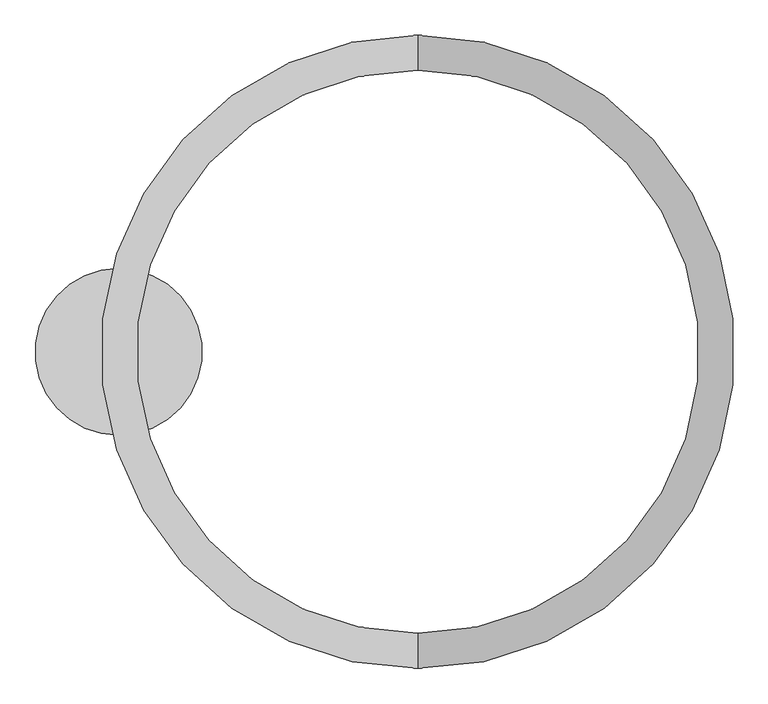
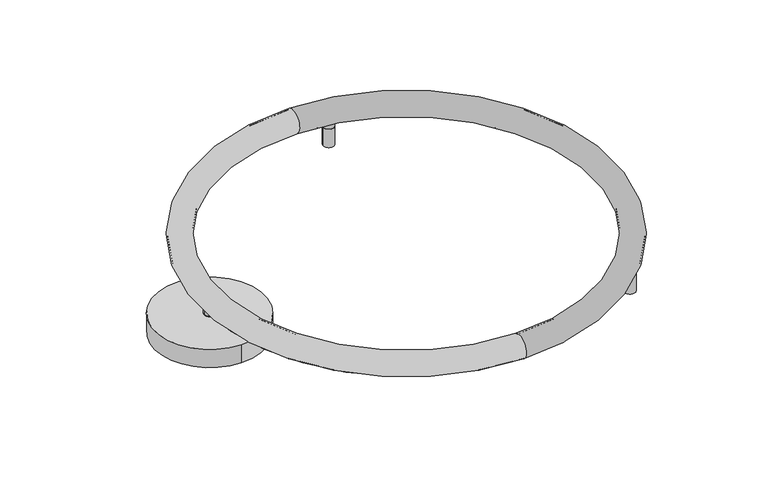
"""IFC4 building model written with IfcOpenShell, lengths in millimetres: light fixture geometry, ARTEMIDE-AoL-StandAlone-Circular_WallCeiling : StandALone_WallCeiling_Circular-900mm 6040lm 3000K."""

from ifc_helpers import new_model, si_unit, point, frame, origin, origin_with_axes, origin_2d, place, context, project, spatial, polyline, circle_curve, ellipse_curve, trimmed, segment, composite_curve, outline, extrude, source, transform, mapped, element, save
from ifc_brep_helpers import plane_surface, cylinder_surface, revolved_surface, advanced_brep


def light_fixture_286f3343(model_context):
    return source(origin(), model_context, "Body", "SolidModel", [
        advanced_brep(
        [(-5.5, 0.0, 0.0), (5.5, 0.0, 0.0), (0.0, 0.0, 0.0), (-5.5, 0.0, 1.0), (5.5, 0.0, 1.0), (-12.0, 0.0, 1.0), (12.0, 0.0, 1.0), (-12.0, 0.0, 42.5), (12.0, 0.0, 42.5), (-9.5243756, 0.0, 42.5), (9.5243756, 0.0, 42.5), (-9.5243756, 0.0, 43.4995055), (9.5243756, 0.0, 43.4995055), (-12.0, 0.0, 43.4995055), (12.0, 0.0, 43.4995055), (-12.0, 0.0, 52.9579379), (12.0, 0.0, 52.9579379), (0.0, 0.0, 52.9579379)],
        [
            (0, 1, circle_curve(frame((0.0, 0.0, 0.0), z_axis=(0.0, 0.0, -1.0), x_axis=(1.0, 0.0, 0.0)), 5.5)),
            (1, 2),
            (2, 0),
            (1, 0, circle_curve(frame((0.0, 0.0, 0.0), z_axis=(0.0, 0.0, -1.0), x_axis=(1.0, 0.0, 0.0)), 5.5)),
            (3, 4, circle_curve(frame((0.0, 0.0, 1.0), z_axis=(0.0, 0.0, -1.0), x_axis=(1.0, 0.0, 0.0)), 5.5)),
            (4, 1),
            (0, 3),
            (4, 3, circle_curve(frame((0.0, 0.0, 1.0), z_axis=(0.0, 0.0, -1.0), x_axis=(1.0, 0.0, 0.0)), 5.5)),
            (5, 6, circle_curve(frame((0.0, 0.0, 1.0), z_axis=(0.0, 0.0, -1.0), x_axis=(1.0, 0.0, 0.0)), 12.0)),
            (6, 4),
            (3, 5),
            (6, 5, circle_curve(frame((0.0, 0.0, 1.0), z_axis=(0.0, 0.0, -1.0), x_axis=(1.0, 0.0, 0.0)), 12.0)),
            (7, 8, circle_curve(frame((0.0, 0.0, 42.5), z_axis=(0.0, 0.0, -1.0), x_axis=(1.0, 0.0, 0.0)), 12.0)),
            (8, 6),
            (5, 7),
            (8, 7, circle_curve(frame((0.0, 0.0, 42.5), z_axis=(0.0, 0.0, -1.0), x_axis=(1.0, 0.0, 0.0)), 12.0)),
            (9, 10, circle_curve(frame((0.0, 0.0, 42.5), z_axis=(0.0, 0.0, -1.0), x_axis=(1.0, 0.0, 0.0)), 9.5243756)),
            (10, 8),
            (7, 9),
            (10, 9, circle_curve(frame((0.0, 0.0, 42.5), z_axis=(0.0, 0.0, -1.0), x_axis=(1.0, 0.0, 0.0)), 9.5243756)),
            (11, 12, circle_curve(frame((0.0, 0.0, 43.4995055), z_axis=(0.0, 0.0, -1.0), x_axis=(1.0, 0.0, 0.0)), 9.5243756)),
            (12, 10),
            (9, 11),
            (12, 11, circle_curve(frame((0.0, 0.0, 43.4995055), z_axis=(0.0, 0.0, -1.0), x_axis=(1.0, 0.0, 0.0)), 9.5243756)),
            (13, 14, circle_curve(frame((0.0, 0.0, 43.4995055), z_axis=(0.0, 0.0, -1.0), x_axis=(1.0, 0.0, 0.0)), 12.0)),
            (14, 12),
            (11, 13),
            (14, 13, circle_curve(frame((0.0, 0.0, 43.4995055), z_axis=(0.0, 0.0, -1.0), x_axis=(1.0, 0.0, 0.0)), 12.0)),
            (15, 16, circle_curve(frame((0.0, 0.0, 52.9579379), z_axis=(0.0, 0.0, -1.0), x_axis=(1.0, 0.0, 0.0)), 12.0)),
            (16, 14),
            (13, 15),
            (16, 15, circle_curve(frame((0.0, 0.0, 52.9579379), z_axis=(0.0, 0.0, -1.0), x_axis=(1.0, 0.0, 0.0)), 12.0)),
            (17, 16),
            (15, 17),
        ],
        [
            plane_surface(frame((0.0, 0.0, 0.0), z_axis=(0.0, 0.0, -1.0), x_axis=(1.0, 0.0, 0.0))),
            cylinder_surface(frame((0.0, 0.0, -58.83358), z_axis=(0.0, 0.0, 1.0), x_axis=(1.0, 0.0, 0.0)), 5.5),
            plane_surface(frame((0.0, 0.0, 1.0), z_axis=(0.0, 0.0, -1.0), x_axis=(1.0, 0.0, 0.0))),
            cylinder_surface(frame((0.0, 0.0, -58.83358), z_axis=(0.0, 0.0, 1.0), x_axis=(1.0, 0.0, 0.0)), 12.0),
            plane_surface(frame((0.0, 0.0, 42.5), z_axis=(0.0, 0.0, 1.0), x_axis=(1.0, 0.0, 0.0))),
            cylinder_surface(frame((0.0, 0.0, -58.83358), z_axis=(0.0, 0.0, 1.0), x_axis=(1.0, 0.0, 0.0)), 9.5243756),
            plane_surface(frame((0.0, 0.0, 43.4995055), z_axis=(0.0, 0.0, -1.0), x_axis=(1.0, 0.0, 0.0))),
            plane_surface(frame((0.0, 0.0, 52.9579379), z_axis=(0.0, 0.0, 1.0), x_axis=(1.0, 0.0, 0.0))),
        ],
        [
            (0, [[1, 2, 3]]),
            (0, [[4, -3, -2]]),
            (1, [[5, 6, -1, 7]]),
            (1, [[8, -7, -4, -6]]),
            (2, [[9, 10, -5, 11]]),
            (2, [[12, -11, -8, -10]]),
            (3, [[13, 14, -9, 15]]),
            (3, [[16, -15, -12, -14]]),
            (4, [[17, 18, -13, 19]]),
            (4, [[20, -19, -16, -18]]),
            (5, [[21, 22, -17, 23]]),
            (5, [[24, -23, -20, -22]]),
            (6, [[25, 26, -21, 27]]),
            (6, [[28, -27, -24, -26]]),
            (3, [[29, 30, -25, 31]]),
            (3, [[32, -31, -28, -30]]),
            (7, [[33, -29, 34]]),
            (7, [[-34, -32, -33]]),
        ],
    ),
        advanced_brep(
        [(504.1, 418.0, 0.0), (493.1, 418.0, 0.0), (498.6, 418.0, 0.0), (504.1, 418.0, 1.0), (493.1, 418.0, 1.0), (510.6, 418.0, 1.0), (486.6, 418.0, 1.0), (510.6, 418.0, 42.5), (486.6, 418.0, 42.5), (508.1243756, 418.0, 42.5), (489.0756244, 418.0, 42.5), (508.1243756, 418.0, 43.4995055), (489.0756244, 418.0, 43.4995055), (510.6, 418.0, 43.4995055), (486.6, 418.0, 43.4995055), (510.6, 418.0, 52.9579379), (486.6, 418.0, 52.9579379), (498.6, 418.0, 52.9579379)],
        [
            (0, 1, circle_curve(frame((498.6, 418.0, 0.0), z_axis=(0.0, 0.0, -1.0), x_axis=(-1.0, 0.0, 0.0)), 5.5)),
            (1, 2),
            (2, 0),
            (1, 0, circle_curve(frame((498.6, 418.0, 0.0), z_axis=(0.0, 0.0, -1.0), x_axis=(-1.0, 0.0, 0.0)), 5.5)),
            (3, 4, circle_curve(frame((498.6, 418.0, 1.0), z_axis=(0.0, 0.0, -1.0), x_axis=(-1.0, 0.0, 0.0)), 5.5)),
            (4, 1),
            (0, 3),
            (4, 3, circle_curve(frame((498.6, 418.0, 1.0), z_axis=(0.0, 0.0, -1.0), x_axis=(-1.0, 0.0, 0.0)), 5.5)),
            (5, 6, circle_curve(frame((498.6, 418.0, 1.0), z_axis=(0.0, 0.0, -1.0), x_axis=(-1.0, 0.0, 0.0)), 12.0)),
            (6, 4),
            (3, 5),
            (6, 5, circle_curve(frame((498.6, 418.0, 1.0), z_axis=(0.0, 0.0, -1.0), x_axis=(-1.0, 0.0, 0.0)), 12.0)),
            (7, 8, circle_curve(frame((498.6, 418.0, 42.5), z_axis=(0.0, 0.0, -1.0), x_axis=(-1.0, 0.0, 0.0)), 12.0)),
            (8, 6),
            (5, 7),
            (8, 7, circle_curve(frame((498.6, 418.0, 42.5), z_axis=(0.0, 0.0, -1.0), x_axis=(-1.0, 0.0, 0.0)), 12.0)),
            (9, 10, circle_curve(frame((498.6, 418.0, 42.5), z_axis=(0.0, 0.0, -1.0), x_axis=(-1.0, 0.0, 0.0)), 9.5243756)),
            (10, 8),
            (7, 9),
            (10, 9, circle_curve(frame((498.6, 418.0, 42.5), z_axis=(0.0, 0.0, -1.0), x_axis=(-1.0, 0.0, 0.0)), 9.5243756)),
            (11, 12, circle_curve(frame((498.6, 418.0, 43.4995055), z_axis=(0.0, 0.0, -1.0), x_axis=(-1.0, 0.0, 0.0)), 9.5243756)),
            (12, 10),
            (9, 11),
            (12, 11, circle_curve(frame((498.6, 418.0, 43.4995055), z_axis=(0.0, 0.0, -1.0), x_axis=(-1.0, 0.0, 0.0)), 9.5243756)),
            (13, 14, circle_curve(frame((498.6, 418.0, 43.4995055), z_axis=(0.0, 0.0, -1.0), x_axis=(-1.0, 0.0, 0.0)), 12.0)),
            (14, 12),
            (11, 13),
            (14, 13, circle_curve(frame((498.6, 418.0, 43.4995055), z_axis=(0.0, 0.0, -1.0), x_axis=(-1.0, 0.0, 0.0)), 12.0)),
            (15, 16, circle_curve(frame((498.6, 418.0, 52.9579379), z_axis=(0.0, 0.0, -1.0), x_axis=(-1.0, 0.0, 0.0)), 12.0)),
            (16, 14),
            (13, 15),
            (16, 15, circle_curve(frame((498.6, 418.0, 52.9579379), z_axis=(0.0, 0.0, -1.0), x_axis=(-1.0, 0.0, 0.0)), 12.0)),
            (17, 16),
            (15, 17),
        ],
        [
            plane_surface(frame((498.6, 418.0, 0.0), z_axis=(0.0, 0.0, -1.0), x_axis=(-1.0, 0.0, 0.0))),
            cylinder_surface(frame((498.6, 418.0, -58.83358), z_axis=(0.0, 0.0, 1.0), x_axis=(-1.0, 0.0, 0.0)), 5.5),
            plane_surface(frame((498.6, 418.0, 1.0), z_axis=(0.0, 0.0, -1.0), x_axis=(-1.0, 0.0, 0.0))),
            cylinder_surface(frame((498.6, 418.0, -58.83358), z_axis=(0.0, 0.0, 1.0), x_axis=(-1.0, 0.0, 0.0)), 12.0),
            plane_surface(frame((498.6, 418.0, 42.5), z_axis=(0.0, 0.0, 1.0), x_axis=(-1.0, 0.0, 0.0))),
            cylinder_surface(frame((498.6, 418.0, -58.83358), z_axis=(0.0, 0.0, 1.0), x_axis=(-1.0, 0.0, 0.0)), 9.5243756),
            plane_surface(frame((498.6, 418.0, 43.4995055), z_axis=(0.0, 0.0, -1.0), x_axis=(-1.0, 0.0, 0.0))),
            plane_surface(frame((498.6, 418.0, 52.9579379), z_axis=(0.0, 0.0, 1.0), x_axis=(-1.0, 0.0, 0.0))),
        ],
        [
            (0, [[1, 2, 3]]),
            (0, [[4, -3, -2]]),
            (1, [[5, 6, -1, 7]]),
            (1, [[8, -7, -4, -6]]),
            (2, [[9, 10, -5, 11]]),
            (2, [[12, -11, -8, -10]]),
            (3, [[13, 14, -9, 15]]),
            (3, [[16, -15, -12, -14]]),
            (4, [[17, 18, -13, 19]]),
            (4, [[20, -19, -16, -18]]),
            (5, [[21, 22, -17, 23]]),
            (5, [[24, -23, -20, -22]]),
            (6, [[25, 26, -21, 27]]),
            (6, [[28, -27, -24, -26]]),
            (3, [[29, 30, -25, 31]]),
            (3, [[32, -31, -28, -30]]),
            (7, [[33, -29, 34]]),
            (7, [[-34, -32, -33]]),
        ],
    ),
        extrude(outline(composite_curve([segment(trimmed(circle_curve(origin_2d(), 118.5), [point((0.0, 118.5))], [point((0.0, -118.5))], False, "CARTESIAN"), True, "CONTINUOUS"), segment(trimmed(circle_curve(origin_2d(), 118.5), [point((0.0, -118.5))], [point((0.0, 118.5))], False, "CARTESIAN"), True, "CONTINUOUS")], self_intersect=False)), origin_with_axes(), (0.0, 0.0, 1.0), 42.0),
        advanced_brep(
        [(753.5, -278.8, 0.0), (742.5, -278.8, 0.0), (748.0, -278.8, 0.0), (753.5, -278.8, 1.0), (742.5, -278.8, 1.0), (760.0, -278.8, 1.0), (736.0, -278.8, 1.0), (760.0, -278.8, 42.5), (736.0, -278.8, 42.5), (757.5243756, -278.8, 42.5), (738.4756244, -278.8, 42.5), (757.5243756, -278.8, 43.4995055), (738.4756244, -278.8, 43.4995055), (760.0, -278.8, 43.4995055), (736.0, -278.8, 43.4995055), (760.0, -278.8, 52.9579379), (736.0, -278.8, 52.9579379), (748.0, -278.8, 52.9579379)],
        [
            (0, 1, circle_curve(frame((748.0, -278.8, 0.0), z_axis=(0.0, 0.0, -1.0), x_axis=(-1.0, 0.0, 0.0)), 5.5)),
            (1, 2),
            (2, 0),
            (1, 0, circle_curve(frame((748.0, -278.8, 0.0), z_axis=(0.0, 0.0, -1.0), x_axis=(-1.0, 0.0, 0.0)), 5.5)),
            (3, 4, circle_curve(frame((748.0, -278.8, 1.0), z_axis=(0.0, 0.0, -1.0), x_axis=(-1.0, 0.0, 0.0)), 5.5)),
            (4, 1),
            (0, 3),
            (4, 3, circle_curve(frame((748.0, -278.8, 1.0), z_axis=(0.0, 0.0, -1.0), x_axis=(-1.0, 0.0, 0.0)), 5.5)),
            (5, 6, circle_curve(frame((748.0, -278.8, 1.0), z_axis=(0.0, 0.0, -1.0), x_axis=(-1.0, 0.0, 0.0)), 12.0)),
            (6, 4),
            (3, 5),
            (6, 5, circle_curve(frame((748.0, -278.8, 1.0), z_axis=(0.0, 0.0, -1.0), x_axis=(-1.0, 0.0, 0.0)), 12.0)),
            (7, 8, circle_curve(frame((748.0, -278.8, 42.5), z_axis=(0.0, 0.0, -1.0), x_axis=(-1.0, 0.0, 0.0)), 12.0)),
            (8, 6),
            (5, 7),
            (8, 7, circle_curve(frame((748.0, -278.8, 42.5), z_axis=(0.0, 0.0, -1.0), x_axis=(-1.0, 0.0, 0.0)), 12.0)),
            (9, 10, circle_curve(frame((748.0, -278.8, 42.5), z_axis=(0.0, 0.0, -1.0), x_axis=(-1.0, 0.0, 0.0)), 9.5243756)),
            (10, 8),
            (7, 9),
            (10, 9, circle_curve(frame((748.0, -278.8, 42.5), z_axis=(0.0, 0.0, -1.0), x_axis=(-1.0, 0.0, 0.0)), 9.5243756)),
            (11, 12, circle_curve(frame((748.0, -278.8, 43.4995055), z_axis=(0.0, 0.0, -1.0), x_axis=(-1.0, 0.0, 0.0)), 9.5243756)),
            (12, 10),
            (9, 11),
            (12, 11, circle_curve(frame((748.0, -278.8, 43.4995055), z_axis=(0.0, 0.0, -1.0), x_axis=(-1.0, 0.0, 0.0)), 9.5243756)),
            (13, 14, circle_curve(frame((748.0, -278.8, 43.4995055), z_axis=(0.0, 0.0, -1.0), x_axis=(-1.0, 0.0, 0.0)), 12.0)),
            (14, 12),
            (11, 13),
            (14, 13, circle_curve(frame((748.0, -278.8, 43.4995055), z_axis=(0.0, 0.0, -1.0), x_axis=(-1.0, 0.0, 0.0)), 12.0)),
            (15, 16, circle_curve(frame((748.0, -278.8, 52.9579379), z_axis=(0.0, 0.0, -1.0), x_axis=(-1.0, 0.0, 0.0)), 12.0)),
            (16, 14),
            (13, 15),
            (16, 15, circle_curve(frame((748.0, -278.8, 52.9579379), z_axis=(0.0, 0.0, -1.0), x_axis=(-1.0, 0.0, 0.0)), 12.0)),
            (17, 16),
            (15, 17),
        ],
        [
            plane_surface(frame((748.0, -278.8, 0.0), z_axis=(0.0, 0.0, -1.0), x_axis=(-1.0, 0.0, 0.0))),
            cylinder_surface(frame((748.0, -278.8, -58.83358), z_axis=(0.0, 0.0, 1.0), x_axis=(-1.0, 0.0, 0.0)), 5.5),
            plane_surface(frame((748.0, -278.8, 1.0), z_axis=(0.0, 0.0, -1.0), x_axis=(-1.0, 0.0, 0.0))),
            cylinder_surface(frame((748.0, -278.8, -58.83358), z_axis=(0.0, 0.0, 1.0), x_axis=(-1.0, 0.0, 0.0)), 12.0),
            plane_surface(frame((748.0, -278.8, 42.5), z_axis=(0.0, 0.0, 1.0), x_axis=(-1.0, 0.0, 0.0))),
            cylinder_surface(frame((748.0, -278.8, -58.83358), z_axis=(0.0, 0.0, 1.0), x_axis=(-1.0, 0.0, 0.0)), 9.5243756),
            plane_surface(frame((748.0, -278.8, 43.4995055), z_axis=(0.0, 0.0, -1.0), x_axis=(-1.0, 0.0, 0.0))),
            plane_surface(frame((748.0, -278.8, 52.9579379), z_axis=(0.0, 0.0, 1.0), x_axis=(-1.0, 0.0, 0.0))),
        ],
        [
            (0, [[1, 2, 3]]),
            (0, [[4, -3, -2]]),
            (1, [[5, 6, -1, 7]]),
            (1, [[8, -7, -4, -6]]),
            (2, [[9, 10, -5, 11]]),
            (2, [[12, -11, -8, -10]]),
            (3, [[13, 14, -9, 15]]),
            (3, [[16, -15, -12, -14]]),
            (4, [[17, 18, -13, 19]]),
            (4, [[20, -19, -16, -18]]),
            (5, [[21, 22, -17, 23]]),
            (5, [[24, -23, -20, -22]]),
            (6, [[25, 26, -21, 27]]),
            (6, [[28, -27, -24, -26]]),
            (3, [[29, 30, -25, 31]]),
            (3, [[32, -31, -28, -30]]),
            (7, [[33, -29, 34]]),
            (7, [[-34, -32, -33]]),
        ],
    ),
        advanced_brep(
        [(425.3445739, -413.1969999, 52.9151372), (425.3445739, 413.3030001, 52.9151372), (425.3445739, 436.8030001, 52.9151372), (425.3445739, -436.6969999, 52.9151372), (425.3445739, -413.1969999, 57.2410096), (425.3445739, 413.3030001, 57.2410096), (425.3445739, -411.2792459, 55.8106819), (425.3445739, 411.3852461, 55.8106819), (425.3445739, 411.3852461, 57.2410096), (425.3445739, -411.2792459, 57.2410096), (425.3445739, -409.3292459, 57.2258724), (425.3445739, 409.4352461, 57.2258724), (425.3445739, -409.3292459, 59.2258716), (425.3445739, 409.4352461, 59.2258716), (425.3445739, -412.2792459, 60.7258716), (425.3445739, 412.3852461, 60.7258716), (425.3445739, 412.3852461, 59.2258716), (425.3445739, -412.2792459, 59.2258716), (425.3445739, -442.2249794, 60.7258716), (425.3445739, 442.3309795, 60.7258716), (425.3445739, 407.7750206, 60.7258716), (425.3445739, -407.6690205, 60.7258716), (425.3445739, -437.6147539, 59.2258716), (425.3445739, 437.7207541, 59.2258716), (425.3445739, 437.7207541, 60.7258716), (425.3445739, -437.6147539, 60.7258716), (425.3445739, -440.5647539, 57.2258724), (425.3445739, 440.6707541, 57.2258724), (425.3445739, 440.6707541, 59.2258716), (425.3445739, -440.5647539, 59.2258716), (425.3445739, -438.6147539, 55.8106819), (425.3445739, 438.7207541, 55.8106819), (425.3445739, -438.6147539, 57.2410096), (425.3445739, 438.7207541, 57.2410096), (425.3445739, 436.8030001, 57.2410096), (425.3445739, -436.6969999, 57.2410096)],
        [
            (0, 1, circle_curve(frame((425.3445739, 0.0530001, 52.9151372), z_axis=(0.0, 0.0, -1.0), x_axis=(0.0, 1.0, 0.0)), 413.25)),
            (1, 2, circle_curve(frame((425.3445739, 425.0530001, 74.9817976), z_axis=(-1.0, 0.0, 0.0), x_axis=(0.0, -1.0, 0.0)), 25.0)),
            (2, 3, circle_curve(frame((425.3445739, 0.0530001, 52.9151372), z_axis=(0.0, 0.0, 1.0), x_axis=(0.0, 1.0, 0.0)), 436.75)),
            (3, 0, circle_curve(frame((425.3445739, -424.9469999, 74.9817976), z_axis=(-1.0, 0.0, 0.0), x_axis=(0.0, 1.0, 0.0)), 25.0)),
            (4, 5, circle_curve(frame((425.3445739, 0.0530001, 57.2410096), z_axis=(0.0, 0.0, -1.0), x_axis=(0.0, 1.0, 0.0)), 413.25)),
            (5, 1),
            (0, 4),
            (6, 7, circle_curve(frame((425.3445739, 0.0530001, 55.8106819), z_axis=(0.0, 0.0, -1.0), x_axis=(0.0, 1.0, 0.0)), 411.332246)),
            (7, 8),
            (8, 9, circle_curve(frame((425.3445739, 0.0530001, 57.2410096), z_axis=(0.0, 0.0, 1.0), x_axis=(0.0, 1.0, 0.0)), 411.332246)),
            (9, 6),
            (10, 11, circle_curve(frame((425.3445739, 0.0530001, 57.2258724), z_axis=(0.0, 0.0, -1.0), x_axis=(0.0, 1.0, 0.0)), 409.382246)),
            (11, 7),
            (6, 10),
            (12, 13, circle_curve(frame((425.3445739, 0.0530001, 59.2258716), z_axis=(0.0, 0.0, -1.0), x_axis=(0.0, 1.0, 0.0)), 409.382246)),
            (13, 11),
            (10, 12),
            (14, 15, circle_curve(frame((425.3445739, 0.0530001, 60.7258716), z_axis=(0.0, 0.0, -1.0), x_axis=(0.0, 1.0, 0.0)), 412.332246)),
            (15, 16),
            (16, 17, circle_curve(frame((425.3445739, 0.0530001, 59.2258716), z_axis=(0.0, 0.0, 1.0), x_axis=(0.0, 1.0, 0.0)), 412.332246)),
            (17, 14),
            (18, 19, circle_curve(frame((425.3445739, 0.0530001, 60.7258716), z_axis=(0.0, 0.0, -1.0), x_axis=(0.0, 1.0, 0.0)), 442.2779794)),
            (19, 20, circle_curve(frame((425.3445739, 425.0530001, 74.9817976), z_axis=(1.0, 0.0, 0.0), x_axis=(0.0, -1.0, 0.0)), 22.4)),
            (20, 21, circle_curve(frame((425.3445739, 0.0530001, 60.7258716), z_axis=(0.0, 0.0, 1.0), x_axis=(0.0, 1.0, 0.0)), 407.7220206)),
            (21, 18, circle_curve(frame((425.3445739, -424.9469999, 74.9817976), z_axis=(1.0, 0.0, 0.0), x_axis=(0.0, 1.0, 0.0)), 22.4)),
            (22, 23, circle_curve(frame((425.3445739, 0.0530001, 59.2258716), z_axis=(0.0, 0.0, -1.0), x_axis=(0.0, 1.0, 0.0)), 437.667754)),
            (23, 24),
            (24, 25, circle_curve(frame((425.3445739, 0.0530001, 60.7258716), z_axis=(0.0, 0.0, 1.0), x_axis=(0.0, 1.0, 0.0)), 437.667754)),
            (25, 22),
            (26, 27, circle_curve(frame((425.3445739, 0.0530001, 57.2258724), z_axis=(0.0, 0.0, -1.0), x_axis=(0.0, 1.0, 0.0)), 440.617754)),
            (27, 28),
            (28, 29, circle_curve(frame((425.3445739, 0.0530001, 59.2258716), z_axis=(0.0, 0.0, 1.0), x_axis=(0.0, 1.0, 0.0)), 440.617754)),
            (29, 26),
            (30, 31, circle_curve(frame((425.3445739, 0.0530001, 55.8106819), z_axis=(0.0, 0.0, -1.0), x_axis=(0.0, 1.0, 0.0)), 438.667754)),
            (31, 27),
            (26, 30),
            (32, 33, circle_curve(frame((425.3445739, 0.0530001, 57.2410096), z_axis=(0.0, 0.0, -1.0), x_axis=(0.0, 1.0, 0.0)), 438.667754)),
            (33, 31),
            (30, 32),
            (2, 34),
            (34, 35, circle_curve(frame((425.3445739, 0.0530001, 57.2410096), z_axis=(0.0, 0.0, 1.0), x_axis=(0.0, 1.0, 0.0)), 436.75)),
            (35, 3),
            (1, 0, circle_curve(frame((425.3445739, 0.0530001, 52.9151372), z_axis=(0.0, 0.0, -1.0), x_axis=(0.0, -1.0, 0.0)), 413.25)),
            (3, 2, circle_curve(frame((425.3445739, 0.0530001, 52.9151372), z_axis=(0.0, 0.0, 1.0), x_axis=(0.0, -1.0, 0.0)), 436.75)),
            (5, 4, circle_curve(frame((425.3445739, 0.0530001, 57.2410096), z_axis=(0.0, 0.0, -1.0), x_axis=(0.0, -1.0, 0.0)), 413.25)),
            (8, 9, circle_curve(frame((425.3445739, 0.0530001, 57.2410096), z_axis=(0.0, 0.0, -1.0), x_axis=(0.0, -1.0, 0.0)), 411.332246)),
            (7, 6, circle_curve(frame((425.3445739, 0.0530001, 55.8106819), z_axis=(0.0, 0.0, -1.0), x_axis=(0.0, -1.0, 0.0)), 411.332246)),
            (11, 10, circle_curve(frame((425.3445739, 0.0530001, 57.2258724), z_axis=(0.0, 0.0, -1.0), x_axis=(0.0, -1.0, 0.0)), 409.382246)),
            (13, 12, circle_curve(frame((425.3445739, 0.0530001, 59.2258716), z_axis=(0.0, 0.0, -1.0), x_axis=(0.0, -1.0, 0.0)), 409.382246)),
            (16, 17, circle_curve(frame((425.3445739, 0.0530001, 59.2258716), z_axis=(0.0, 0.0, -1.0), x_axis=(0.0, -1.0, 0.0)), 412.332246)),
            (15, 14, circle_curve(frame((425.3445739, 0.0530001, 60.7258716), z_axis=(0.0, 0.0, -1.0), x_axis=(0.0, -1.0, 0.0)), 412.332246)),
            (20, 21, circle_curve(frame((425.3445739, 0.0530001, 60.7258716), z_axis=(0.0, 0.0, -1.0), x_axis=(0.0, -1.0, 0.0)), 407.7220206)),
            (19, 18, circle_curve(frame((425.3445739, 0.0530001, 60.7258716), z_axis=(0.0, 0.0, -1.0), x_axis=(0.0, -1.0, 0.0)), 442.2779794)),
            (24, 25, circle_curve(frame((425.3445739, 0.0530001, 60.7258716), z_axis=(0.0, 0.0, -1.0), x_axis=(0.0, -1.0, 0.0)), 437.667754)),
            (23, 22, circle_curve(frame((425.3445739, 0.0530001, 59.2258716), z_axis=(0.0, 0.0, -1.0), x_axis=(0.0, -1.0, 0.0)), 437.667754)),
            (28, 29, circle_curve(frame((425.3445739, 0.0530001, 59.2258716), z_axis=(0.0, 0.0, -1.0), x_axis=(0.0, -1.0, 0.0)), 440.617754)),
            (27, 26, circle_curve(frame((425.3445739, 0.0530001, 57.2258724), z_axis=(0.0, 0.0, -1.0), x_axis=(0.0, -1.0, 0.0)), 440.617754)),
            (31, 30, circle_curve(frame((425.3445739, 0.0530001, 55.8106819), z_axis=(0.0, 0.0, -1.0), x_axis=(0.0, -1.0, 0.0)), 438.667754)),
            (33, 32, circle_curve(frame((425.3445739, 0.0530001, 57.2410096), z_axis=(0.0, 0.0, -1.0), x_axis=(0.0, -1.0, 0.0)), 438.667754)),
            (34, 35, circle_curve(frame((425.3445739, 0.0530001, 57.2410096), z_axis=(0.0, 0.0, -1.0), x_axis=(0.0, -1.0, 0.0)), 436.75)),
        ],
        [
            revolved_surface(trimmed(ellipse_curve(frame((425.3445739, 425.0530001, 74.9817976), z_axis=(1.0, 0.0, 0.0), x_axis=(0.0, -1.0, 0.0)), 25.0, 25.0), [point((425.3445739, 436.8030001, 52.9151372))], [point((425.3445739, 413.3030001, 52.9151372))], True, "CARTESIAN"), (425.3445739, 0.0530001, 50.0), (0.0, 0.0, 1.0)),
            cylinder_surface(frame((425.3445739, 0.0530001, 50.0), z_axis=(0.0, 0.0, 1.0), x_axis=(0.0, 1.0, 0.0)), 413.25),
            revolved_surface(polyline([(425.3445739, 411.3852461, 57.2410096), (425.3445739, 411.3852461, 55.8106819)]), (425.3445739, 0.0530001, 50.0), (0.0, 0.0, 1.0)),
            revolved_surface(polyline([(425.3445739, 411.3852461, 55.8106819), (425.3445739, 409.4352461, 57.2258724)]), (425.3445739, 0.0530001, 50.0), (0.0, 0.0, 1.0)),
            cylinder_surface(frame((425.3445739, 0.0530001, 50.0), z_axis=(0.0, 0.0, 1.0), x_axis=(0.0, 1.0, 0.0)), 409.382246),
            cylinder_surface(frame((425.3445739, 0.0530001, 50.0), z_axis=(0.0, 0.0, 1.0), x_axis=(0.0, 1.0, 0.0)), 412.332246),
            revolved_surface(trimmed(ellipse_curve(frame((425.3445739, 425.0530001, 74.9817976), z_axis=(-1.0, 0.0, 0.0), x_axis=(0.0, -1.0, 0.0)), 22.4, 22.4), [point((425.3445739, 407.7750206, 60.7258716))], [point((425.3445739, 442.3309795, 60.7258716))], True, "CARTESIAN"), (425.3445739, 0.0530001, 50.0), (0.0, 0.0, 1.0)),
            revolved_surface(polyline([(425.3445739, 437.7207541, 60.7258716), (425.3445739, 437.7207541, 59.2258716)]), (425.3445739, 0.0530001, 50.0), (0.0, 0.0, 1.0)),
            revolved_surface(polyline([(425.3445739, 440.6707541, 59.2258716), (425.3445739, 440.6707541, 57.2258724)]), (425.3445739, 0.0530001, 50.0), (0.0, 0.0, 1.0)),
            revolved_surface(polyline([(425.3445739, 440.6707541, 57.2258724), (425.3445739, 438.7207541, 55.8106819)]), (425.3445739, 0.0530001, 50.0), (0.0, 0.0, 1.0)),
            cylinder_surface(frame((425.3445739, 0.0530001, 50.0), z_axis=(0.0, 0.0, 1.0), x_axis=(0.0, 1.0, 0.0)), 438.667754),
            revolved_surface(polyline([(425.3445739, 436.8030001, 57.2410096), (425.3445739, 436.8030001, 52.9151372)]), (425.3445739, 0.0530001, 50.0), (0.0, 0.0, 1.0)),
            revolved_surface(trimmed(ellipse_curve(frame((425.3445739, -424.9469999, 74.9817976), z_axis=(-1.0, 0.0, 0.0), x_axis=(0.0, 1.0, 0.0)), 25.0, 25.0), [point((425.3445739, -436.6969999, 52.9151372))], [point((425.3445739, -413.1969999, 52.9151372))], True, "CARTESIAN"), (425.3445739, 0.0530001, 50.0), (0.0, 0.0, 1.0)),
            cylinder_surface(frame((425.3445739, 0.0530001, 50.0), z_axis=(0.0, 0.0, 1.0), x_axis=(0.0, -1.0, 0.0)), 413.25),
            plane_surface(frame((425.3445739, 0.0530001, 57.2410096), z_axis=(0.0, 0.0, 1.0), x_axis=(0.0, -1.0, 0.0))),
            revolved_surface(polyline([(425.3445739, -411.2792459, 57.2410096), (425.3445739, -411.2792459, 55.8106819)]), (425.3445739, 0.0530001, 50.0), (0.0, 0.0, 1.0)),
            revolved_surface(polyline([(425.3445739, -411.2792459, 55.8106819), (425.3445739, -409.3292459, 57.2258724)]), (425.3445739, 0.0530001, 50.0), (0.0, 0.0, 1.0)),
            cylinder_surface(frame((425.3445739, 0.0530001, 50.0), z_axis=(0.0, 0.0, 1.0), x_axis=(0.0, -1.0, 0.0)), 409.382246),
            plane_surface(frame((425.3445739, 0.0530001, 59.2258716), z_axis=(0.0, 0.0, -1.0), x_axis=(0.0, -1.0, 0.0))),
            cylinder_surface(frame((425.3445739, 0.0530001, 50.0), z_axis=(0.0, 0.0, 1.0), x_axis=(0.0, -1.0, 0.0)), 412.332246),
            plane_surface(frame((425.3445739, 0.0530001, 60.7258716), z_axis=(0.0, 0.0, 1.0), x_axis=(0.0, -1.0, 0.0))),
            revolved_surface(trimmed(ellipse_curve(frame((425.3445739, -424.9469999, 74.9817976), z_axis=(1.0, 0.0, 0.0), x_axis=(0.0, 1.0, 0.0)), 22.4, 22.4), [point((425.3445739, -407.6690205, 60.7258716))], [point((425.3445739, -442.2249794, 60.7258716))], True, "CARTESIAN"), (425.3445739, 0.0530001, 50.0), (0.0, 0.0, 1.0)),
            revolved_surface(polyline([(425.3445739, -437.6147539, 60.7258716), (425.3445739, -437.6147539, 59.2258716)]), (425.3445739, 0.0530001, 50.0), (0.0, 0.0, 1.0)),
            revolved_surface(polyline([(425.3445739, -440.56475389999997, 59.2258716), (425.3445739, -440.56475389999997, 57.2258724)]), (425.3445739, 0.0530001, 50.0), (0.0, 0.0, 1.0)),
            revolved_surface(polyline([(425.3445739, -440.5647539, 57.2258724), (425.3445739, -438.6147539, 55.8106819)]), (425.3445739, 0.0530001, 50.0), (0.0, 0.0, 1.0)),
            cylinder_surface(frame((425.3445739, 0.0530001, 50.0), z_axis=(0.0, 0.0, 1.0), x_axis=(0.0, -1.0, 0.0)), 438.667754),
            revolved_surface(polyline([(425.3445739, -436.6969999, 57.2410096), (425.3445739, -436.6969999, 52.9151372)]), (425.3445739, 0.0530001, 50.0), (0.0, 0.0, 1.0)),
        ],
        [
            (0, [[1, 2, 3, 4]]),
            (1, [[5, 6, -1, 7]]),
            (2, [[8, 9, 10, 11]]),
            (3, [[12, 13, -8, 14]]),
            (4, [[15, 16, -12, 17]]),
            (5, [[18, 19, 20, 21]]),
            (6, [[22, 23, 24, 25]]),
            (7, [[26, 27, 28, 29]]),
            (8, [[30, 31, 32, 33]]),
            (9, [[34, 35, -30, 36]]),
            (10, [[37, 38, -34, 39]]),
            (11, [[-3, 40, 41, 42]]),
            (12, [[43, -4, 44, -2]]),
            (13, [[45, -7, -43, -6]]),
            (14, [[-45, -5], [46, -10]]),
            (15, [[47, -11, -46, -9]]),
            (16, [[48, -14, -47, -13]]),
            (17, [[49, -17, -48, -16]]),
            (18, [[50, -20], [-49, -15]]),
            (19, [[51, -21, -50, -19]]),
            (20, [[-51, -18], [52, -24]]),
            (21, [[53, -25, -52, -23]]),
            (20, [[-53, -22], [54, -28]]),
            (22, [[55, -29, -54, -27]]),
            (18, [[56, -32], [-55, -26]]),
            (23, [[57, -33, -56, -31]]),
            (24, [[58, -36, -57, -35]]),
            (25, [[59, -39, -58, -38]]),
            (14, [[-59, -37], [60, -41]]),
            (26, [[-44, -42, -60, -40]]),
        ],
    ),
        advanced_brep(
        [(425.3445739, -435.75, 52.9), (425.3445739, 437.75, 52.9), (425.3445739, 414.25, 52.9), (425.3445739, -412.25, 52.9), (425.3445739, -435.75, 57.2258724), (425.3445739, 437.75, 57.2258724), (425.3445739, -439.304087, 58.7526314), (425.3445739, 441.304087, 58.7526314), (425.3445739, 441.304087, 57.2258724), (425.3445739, -439.304087, 57.2258724), (425.3445739, -433.5062575, 64.3940086), (425.3445739, 435.5062575, 64.3940086), (425.3445739, 435.5062575, 58.7526314), (425.3445739, -433.5062575, 58.7526314), (425.3445739, -414.4937425, 58.7526314), (425.3445739, 416.4937425, 58.7526314), (425.3445739, 416.4937425, 64.3940086), (425.3445739, -414.4937425, 64.3940086), (425.3445739, -408.695913, 57.2258724), (425.3445739, 410.695913, 57.2258724), (425.3445739, 410.695913, 58.7526314), (425.3445739, -408.695913, 58.7526314), (425.3445739, 414.25, 57.2258724), (425.3445739, -412.25, 57.2258724)],
        [
            (0, 1, circle_curve(frame((425.3445739, 1.0, 52.9), z_axis=(0.0, 0.0, -1.0), x_axis=(0.0, 1.0, 0.0)), 436.75)),
            (1, 2, circle_curve(frame((425.3445739, 426.0, 74.9666604), z_axis=(-1.0, 0.0, 0.0), x_axis=(0.0, -1.0, 0.0)), 25.0)),
            (2, 3, circle_curve(frame((425.3445739, 1.0, 52.9), z_axis=(0.0, 0.0, 1.0), x_axis=(0.0, 1.0, 0.0)), 413.25)),
            (3, 0, circle_curve(frame((425.3445739, -424.0, 74.9666604), z_axis=(-1.0, 0.0, 0.0), x_axis=(0.0, 1.0, 0.0)), 25.0)),
            (4, 5, circle_curve(frame((425.3445739, 1.0, 57.2258724), z_axis=(0.0, 0.0, -1.0), x_axis=(0.0, 1.0, 0.0)), 436.75)),
            (5, 1),
            (0, 4),
            (6, 7, circle_curve(frame((425.3445739, 1.0, 58.7526314), z_axis=(0.0, 0.0, -1.0), x_axis=(0.0, 1.0, 0.0)), 440.304087)),
            (7, 8),
            (8, 9, circle_curve(frame((425.3445739, 1.0, 57.2258724), z_axis=(0.0, 0.0, 1.0), x_axis=(0.0, 1.0, 0.0)), 440.304087)),
            (9, 6),
            (10, 11, circle_curve(frame((425.3445739, 1.0, 64.3940086), z_axis=(0.0, 0.0, -1.0), x_axis=(0.0, 1.0, 0.0)), 434.5062575)),
            (11, 12),
            (12, 13, circle_curve(frame((425.3445739, 1.0, 58.7526314), z_axis=(0.0, 0.0, 1.0), x_axis=(0.0, 1.0, 0.0)), 434.5062575)),
            (13, 10),
            (14, 15, circle_curve(frame((425.3445739, 1.0, 58.7526314), z_axis=(0.0, 0.0, -1.0), x_axis=(0.0, 1.0, 0.0)), 415.4937425)),
            (15, 16),
            (16, 17, circle_curve(frame((425.3445739, 1.0, 64.3940086), z_axis=(0.0, 0.0, 1.0), x_axis=(0.0, 1.0, 0.0)), 415.4937425)),
            (17, 14),
            (18, 19, circle_curve(frame((425.3445739, 1.0, 57.2258724), z_axis=(0.0, 0.0, -1.0), x_axis=(0.0, 1.0, 0.0)), 409.695913)),
            (19, 20),
            (20, 21, circle_curve(frame((425.3445739, 1.0, 58.7526314), z_axis=(0.0, 0.0, 1.0), x_axis=(0.0, 1.0, 0.0)), 409.695913)),
            (21, 18),
            (2, 22),
            (22, 23, circle_curve(frame((425.3445739, 1.0, 57.2258724), z_axis=(0.0, 0.0, 1.0), x_axis=(0.0, 1.0, 0.0)), 413.25)),
            (23, 3),
            (1, 0, circle_curve(frame((425.3445739, 1.0, 52.9), z_axis=(0.0, 0.0, -1.0), x_axis=(0.0, -1.0, 0.0)), 436.75)),
            (3, 2, circle_curve(frame((425.3445739, 1.0, 52.9), z_axis=(0.0, 0.0, 1.0), x_axis=(0.0, -1.0, 0.0)), 413.25)),
            (5, 4, circle_curve(frame((425.3445739, 1.0, 57.2258724), z_axis=(0.0, 0.0, -1.0), x_axis=(0.0, -1.0, 0.0)), 436.75)),
            (8, 9, circle_curve(frame((425.3445739, 1.0, 57.2258724), z_axis=(0.0, 0.0, -1.0), x_axis=(0.0, -1.0, 0.0)), 440.304087)),
            (7, 6, circle_curve(frame((425.3445739, 1.0, 58.7526314), z_axis=(0.0, 0.0, -1.0), x_axis=(0.0, -1.0, 0.0)), 440.304087)),
            (12, 13, circle_curve(frame((425.3445739, 1.0, 58.7526314), z_axis=(0.0, 0.0, -1.0), x_axis=(0.0, -1.0, 0.0)), 434.5062575)),
            (11, 10, circle_curve(frame((425.3445739, 1.0, 64.3940086), z_axis=(0.0, 0.0, -1.0), x_axis=(0.0, -1.0, 0.0)), 434.5062575)),
            (16, 17, circle_curve(frame((425.3445739, 1.0, 64.3940086), z_axis=(0.0, 0.0, -1.0), x_axis=(0.0, -1.0, 0.0)), 415.4937425)),
            (15, 14, circle_curve(frame((425.3445739, 1.0, 58.7526314), z_axis=(0.0, 0.0, -1.0), x_axis=(0.0, -1.0, 0.0)), 415.4937425)),
            (20, 21, circle_curve(frame((425.3445739, 1.0, 58.7526314), z_axis=(0.0, 0.0, -1.0), x_axis=(0.0, -1.0, 0.0)), 409.695913)),
            (19, 18, circle_curve(frame((425.3445739, 1.0, 57.2258724), z_axis=(0.0, 0.0, -1.0), x_axis=(0.0, -1.0, 0.0)), 409.695913)),
            (22, 23, circle_curve(frame((425.3445739, 1.0, 57.2258724), z_axis=(0.0, 0.0, -1.0), x_axis=(0.0, -1.0, 0.0)), 413.25)),
        ],
        [
            revolved_surface(trimmed(ellipse_curve(frame((425.3445739, 426.0, 74.9666604), z_axis=(1.0, 0.0, 0.0), x_axis=(0.0, -1.0, 0.0)), 25.0, 25.0), [point((425.3445739, 414.25, 52.9))], [point((425.3445739, 437.75, 52.9))], True, "CARTESIAN"), (425.3445739, 1.0, 50.0), (0.0, 0.0, 1.0)),
            cylinder_surface(frame((425.3445739, 1.0, 50.0), z_axis=(0.0, 0.0, 1.0), x_axis=(0.0, 1.0, 0.0)), 436.75),
            cylinder_surface(frame((425.3445739, 1.0, 50.0), z_axis=(0.0, 0.0, 1.0), x_axis=(0.0, 1.0, 0.0)), 440.304087),
            cylinder_surface(frame((425.3445739, 1.0, 50.0), z_axis=(0.0, 0.0, 1.0), x_axis=(0.0, 1.0, 0.0)), 434.5062575),
            revolved_surface(polyline([(425.3445739, 416.4937425, 64.3940086), (425.3445739, 416.4937425, 58.7526314)]), (425.3445739, 1.0, 50.0), (0.0, 0.0, 1.0)),
            revolved_surface(polyline([(425.3445739, 410.695913, 58.7526314), (425.3445739, 410.695913, 57.2258724)]), (425.3445739, 1.0, 50.0), (0.0, 0.0, 1.0)),
            revolved_surface(polyline([(425.3445739, 414.25, 57.2258724), (425.3445739, 414.25, 52.9)]), (425.3445739, 1.0, 50.0), (0.0, 0.0, 1.0)),
            revolved_surface(trimmed(ellipse_curve(frame((425.3445739, -424.0, 74.9666604), z_axis=(-1.0, 0.0, 0.0), x_axis=(0.0, 1.0, 0.0)), 25.0, 25.0), [point((425.3445739, -412.25, 52.9))], [point((425.3445739, -435.75, 52.9))], True, "CARTESIAN"), (425.3445739, 1.0, 50.0), (0.0, 0.0, 1.0)),
            cylinder_surface(frame((425.3445739, 1.0, 50.0), z_axis=(0.0, 0.0, 1.0), x_axis=(0.0, -1.0, 0.0)), 436.75),
            plane_surface(frame((425.3445739, 1.0, 57.2258724), z_axis=(0.0, 0.0, -1.0), x_axis=(0.0, -1.0, 0.0))),
            cylinder_surface(frame((425.3445739, 1.0, 50.0), z_axis=(0.0, 0.0, 1.0), x_axis=(0.0, -1.0, 0.0)), 440.304087),
            plane_surface(frame((425.3445739, 1.0, 58.7526314), z_axis=(0.0, 0.0, 1.0), x_axis=(0.0, -1.0, 0.0))),
            cylinder_surface(frame((425.3445739, 1.0, 50.0), z_axis=(0.0, 0.0, 1.0), x_axis=(0.0, -1.0, 0.0)), 434.5062575),
            plane_surface(frame((425.3445739, 1.0, 64.3940086), z_axis=(0.0, 0.0, 1.0), x_axis=(0.0, -1.0, 0.0))),
            revolved_surface(polyline([(425.3445739, -414.4937425, 64.3940086), (425.3445739, -414.4937425, 58.7526314)]), (425.3445739, 1.0, 50.0), (0.0, 0.0, 1.0)),
            revolved_surface(polyline([(425.3445739, -408.695913, 58.7526314), (425.3445739, -408.695913, 57.2258724)]), (425.3445739, 1.0, 50.0), (0.0, 0.0, 1.0)),
            revolved_surface(polyline([(425.3445739, -412.25, 57.2258724), (425.3445739, -412.25, 52.9)]), (425.3445739, 1.0, 50.0), (0.0, 0.0, 1.0)),
        ],
        [
            (0, [[1, 2, 3, 4]]),
            (1, [[5, 6, -1, 7]]),
            (2, [[8, 9, 10, 11]]),
            (3, [[12, 13, 14, 15]]),
            (4, [[16, 17, 18, 19]]),
            (5, [[20, 21, 22, 23]]),
            (6, [[-3, 24, 25, 26]]),
            (7, [[27, -4, 28, -2]]),
            (8, [[29, -7, -27, -6]]),
            (9, [[30, -10], [-29, -5]]),
            (10, [[31, -11, -30, -9]]),
            (11, [[-31, -8], [32, -14]]),
            (12, [[33, -15, -32, -13]]),
            (13, [[-33, -12], [34, -18]]),
            (14, [[35, -19, -34, -17]]),
            (11, [[-35, -16], [36, -22]]),
            (15, [[37, -23, -36, -21]]),
            (9, [[38, -25], [-37, -20]]),
            (16, [[-28, -26, -38, -24]]),
        ],
    ),
    ])


if __name__ == "__main__":
    model = new_model("IFC4")
    model_context = context("Model", 3, world=origin())
    ifc_project = project(units=[si_unit("LENGTHUNIT", "METRE", prefix="MILLI")], contexts=[model_context])
    site = spatial("IfcSite", under=ifc_project)
    building = spatial("IfcBuilding", under=site)
    placement = place(None, origin())
    light_fixture_shape = light_fixture_286f3343(model_context)
    element("IfcLightFixture", 1, ObjectType="ARTEMIDE-AoL-StandAlone-Circular_WallCeiling : StandALone_WallCeiling_Circular-900mm 6040lm 3000K", at=placement, inside=building, context=model_context, shape_type="MappedRepresentation", body=[
        mapped(light_fixture_shape, transform((0.0, 0.0, 0.0), x_axis=(1.0, 0.0, 0.0), y_axis=(0.0, 1.0, 0.0), z_axis=(0.0, 0.0, 1.0))),
    ])
    save(model, "model.ifc")
